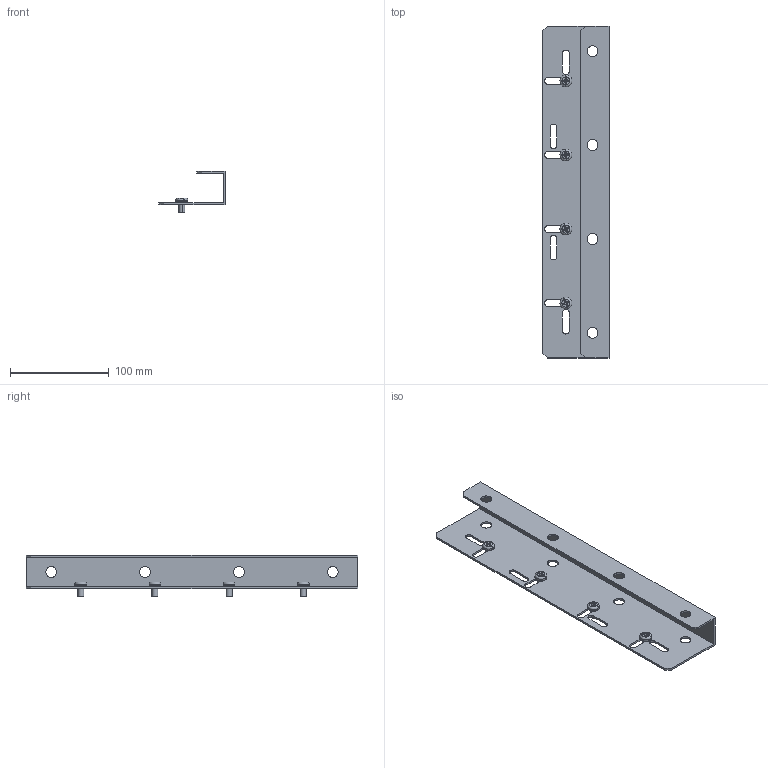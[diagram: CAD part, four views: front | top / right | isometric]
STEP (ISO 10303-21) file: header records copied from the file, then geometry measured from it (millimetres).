
FILE_DESCRIPTION (( 'STEP AP214' ), '1' );
FILE_NAME ('FO-00-SID Êîìïëåêò ïëàíêè îïîðíûõ èçîëÿòîðîâ ARMAT ACB òèïîðàçìåð D 3II4P.STEP', '2025-08-04T10:47:40', ( '' ), ( '' ), 'SwSTEP 2.0', 'SolidWorks 2023', '' );
FILE_SCHEMA (( 'AUTOMOTIVE_DESIGN' ));
Length unit declared in the file: millimetre
Products named in the file (3): Комплект планки опорных изоляторов ARMAT ACB типоразмер D 3II4P; FO-00-SID Комплект планки опорных изоляторов ARMAT ACB типоразмер D 3II4P; Винт М6х10 IEK
Assembly tree (5 placements, depth 2):
  FO-00-SID Комплект планки опорных изоляторов ARMAT ACB типоразмер D 3II4P
    Комплект планки опорных изоляторов ARMAT ACB типоразмер D 3II4P
    Винт М6х10 IEK  x4
Bounding box: 67.5 x 336 x 42 mm (x, y, z)
Volume: 82966.8 mm3; surface area: 86044.8 mm2
Topology: 5 solids, 5 shells, 206 faces, 540 edges, 352 vertices
Faces by surface type: plane 86, cylinder 60, cone 44, torus 16
Entity records: 3865 total; most frequent: DIRECTION 673, CARTESIAN_POINT 668, ORIENTED_EDGE 630, EDGE_CURVE 315, AXIS2_PLACEMENT_3D 245, VERTEX_POINT 208, LINE 183, VECTOR 183
